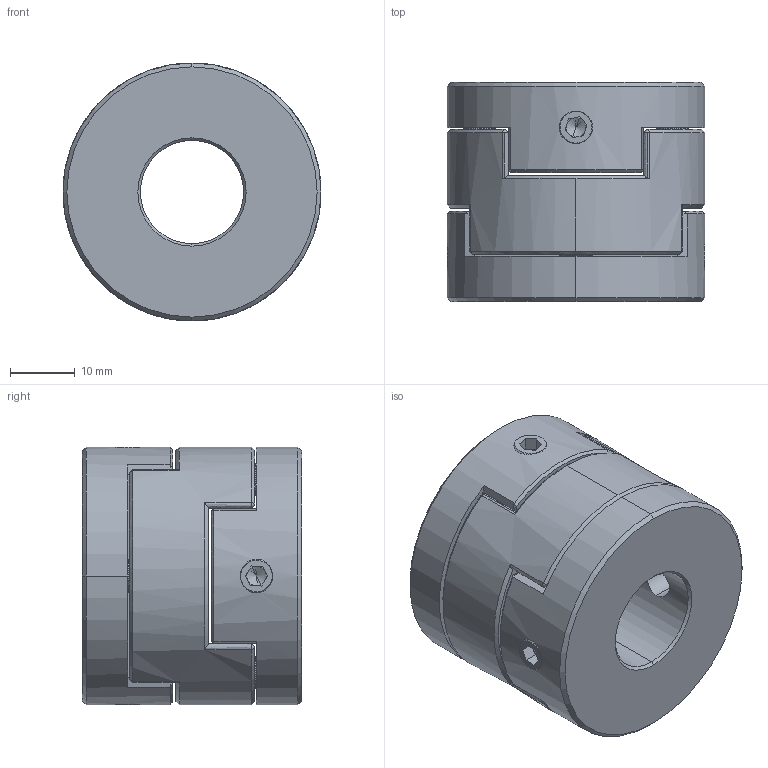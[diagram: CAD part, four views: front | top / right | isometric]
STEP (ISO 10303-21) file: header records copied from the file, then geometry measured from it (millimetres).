
FILE_DESCRIPTION (( 'STEP AP203' ), '1' );
FILE_NAME ('LZ-D-D40L35-16-16.STEP', '2021-10-30T05:22:53', ( '' ), ( '' ), 'SwSTEP 2.0', 'SolidWorks 2018', '' );
FILE_SCHEMA (( 'CONFIG_CONTROL_DESIGN' ));
Length unit declared in the file: millimetre
Products named in the file (1): LZ-D-D40L35-16-16
Bounding box: 40 x 34 x 40 mm (x, y, z)
Volume: 33842.4 mm3; surface area: 12357.8 mm2
Topology: 1 solids, 1 shells, 217 faces, 542 edges, 327 vertices
Faces by surface type: plane 88, bspline 55, cone 48, cylinder 26
Entity records: 7728 total; most frequent: CARTESIAN_POINT 3005, ORIENTED_EDGE 1068, DIRECTION 796, EDGE_CURVE 534, VERTEX_POINT 327, AXIS2_PLACEMENT_3D 289, EDGE_LOOP 243, LINE 218
